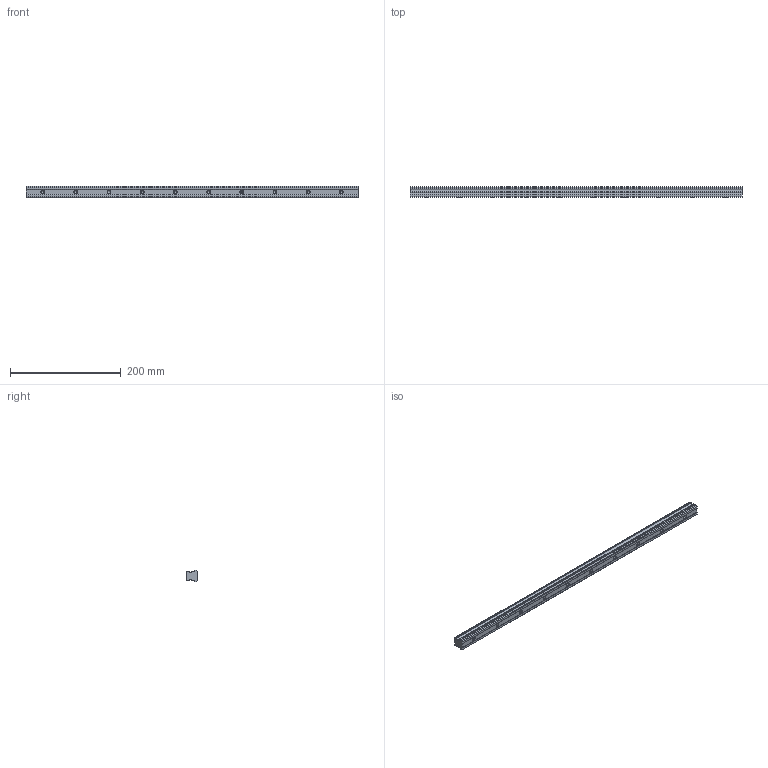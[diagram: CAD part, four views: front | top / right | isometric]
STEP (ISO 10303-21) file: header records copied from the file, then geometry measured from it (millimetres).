
FILE_DESCRIPTION (( 'STEP AP203' ), '1' );
FILE_NAME ('L1018.20R-0600.step', '2023-08-06T09:05:37', ( '' ), ( '' ), 'SwSTEP 2.0', 'SolidWorks 2019', '' );
FILE_SCHEMA (( 'CONFIG_CONTROL_DESIGN' ));
Length unit declared in the file: millimetre
Products named in the file (1): L1018.20R-0600
Bounding box: 600 x 19.3 x 20 mm (x, y, z)
Volume: 190277 mm3; surface area: 51280.9 mm2
Topology: 1 solids, 1 shells, 119 faces, 281 edges, 164 vertices
Faces by surface type: cylinder 43, cone 40, plane 36
Entity records: 3338 total; most frequent: DIRECTION 607, CARTESIAN_POINT 545, ORIENTED_EDGE 522, EDGE_CURVE 261, AXIS2_PLACEMENT_3D 226, VERTEX_POINT 164, LINE 155, VECTOR 155
